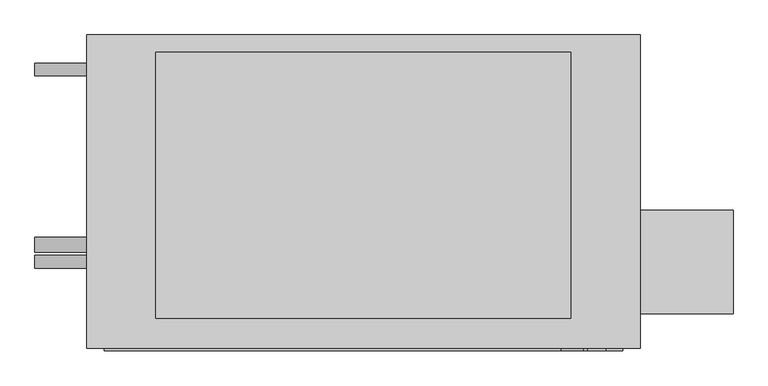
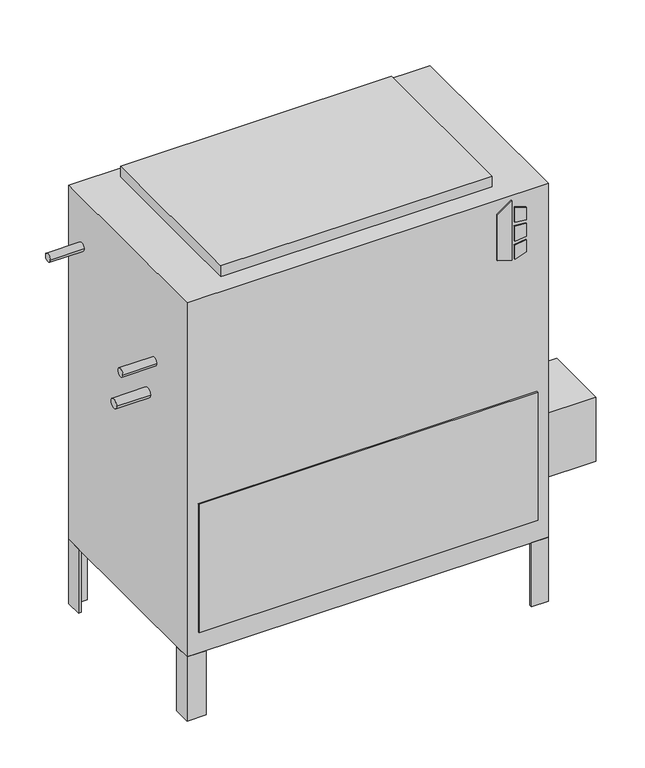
"""IFC4 building model written with IfcOpenShell, lengths in millimetres: proxy geometry, Concealed_High_Capacity_Vertical_Fan_Coil_Unit_-_VEY_-_IEC_-_2-Pipe_Cool-EHeat_LH_2022 : Size 10 - 277v/60Hz/1Ph - 6 Row 7.0kW."""

import ifcopenshell
import ifcopenshell.guid

model = None  # the IFC model being written
_history = None  # IfcOwnerHistory: only IFC2X3 demands one
_inside = {}  # id of a spatial element -> (the spatial element, [elements in it])
_under = {}  # id of a project, library or spatial element -> (it, [spatial elements below it])
_declared = {}  # id of a project -> (the project, [libraries it declares])
_typed = {}  # id of a type object -> (the type object, [elements of that type])
_made_of = {}  # id of a material, layer set ... -> (it, [elements and type objects made of it])


def new_model(schema):
    """Start an empty IFC model of exactly this schema.

    Asked for "IFC4X3", IfcOpenShell would pick the latest addendum, in which some entities
    have other attributes; the version numbers below select the first issue.
    IFC2X3 requires an IfcOwnerHistory on every rooted entity: one is made here for all.
    """
    global model, _history
    if schema == "IFC4X3":
        model = ifcopenshell.file(schema_version=(4, 3, 0, 0))
    else:
        model = ifcopenshell.file(schema=schema)
    _inside.clear()
    _under.clear()
    _declared.clear()
    _typed.clear()
    _made_of.clear()
    _history = None
    if model.schema == "IFC2X3":
        org = make("IfcOrganization", Name="unknown")
        user = make(
            "IfcPersonAndOrganization",
            ThePerson=make("IfcPerson", FamilyName="unknown"),
            TheOrganization=org,
        )
        app = make(
            "IfcApplication",
            ApplicationDeveloper=org,
            Version="unknown",
            ApplicationFullName="unknown",
            ApplicationIdentifier="unknown",
        )
        _history = make(
            "IfcOwnerHistory",
            OwningUser=user,
            OwningApplication=app,
            ChangeAction="ADDED",
            CreationDate=0,
        )
    return model


def make(cls, **values):
    """One entity of the class cls with the attributes given. An attribute that is None is left unset."""
    return model.create_entity(
        cls, **{name: value for name, value in values.items() if value is not None}
    )


def rooted(cls, **values):
    """An entity with a GlobalId (a new one), such as an element, a storey or a relation."""
    return make(cls, GlobalId=ifcopenshell.guid.new(), OwnerHistory=_history, **values)


def si_unit(unit_type, name, prefix=None):
    """IfcSIUnit, for example si_unit("LENGTHUNIT", "METRE", prefix="MILLI")."""
    return make("IfcSIUnit", UnitType=unit_type, Prefix=prefix, Name=name)


def assignment(units):
    """IfcUnitAssignment: the units of a project."""
    return None if units is None else make("IfcUnitAssignment", Units=units)


def point(xyz):
    """IfcCartesianPoint."""
    return None if xyz is None else make("IfcCartesianPoint", Coordinates=xyz)


def direction(xyz):
    """IfcDirection."""
    return None if xyz is None else make("IfcDirection", DirectionRatios=xyz)


def frame(location, z_axis=None, x_axis=None):
    """IfcAxis2Placement3D, a coordinate frame: its origin and axes. An axis left out is left unset."""
    return make(
        "IfcAxis2Placement3D",
        Location=point(location),
        Axis=direction(z_axis),
        RefDirection=direction(x_axis),
    )


def frame_2d(location, x_axis=None):
    """IfcAxis2Placement2D, a coordinate frame in the plane: its origin and x axis."""
    return make(
        "IfcAxis2Placement2D", Location=point(location), RefDirection=direction(x_axis)
    )


def origin():
    """The frame at (0, 0, 0) with its axes left unset."""
    return frame((0.0, 0.0, 0.0))


def origin_with_axes():
    """The frame at (0, 0, 0) with the z axis (0, 0, 1) and the x axis (1, 0, 0) written out."""
    return frame((0.0, 0.0, 0.0), z_axis=(0.0, 0.0, 1.0), x_axis=(1.0, 0.0, 0.0))


def place(relative_to, where):
    """IfcLocalPlacement: puts the frame where relative to a parent placement (None: the world)."""
    return make(
        "IfcLocalPlacement", PlacementRelTo=relative_to, RelativePlacement=where
    )


def context(
    kind, dimensions, precision=None, world=None, true_north=None, identifier=None
):
    """IfcGeometricRepresentationContext, for example the 3D "Model" context."""
    return make(
        "IfcGeometricRepresentationContext",
        ContextIdentifier=identifier,
        ContextType=kind,
        CoordinateSpaceDimension=dimensions,
        Precision=precision,
        WorldCoordinateSystem=world,
        TrueNorth=true_north,
    )


def project(units=None, contexts=None):
    """IfcProject with its units and contexts."""
    return rooted(
        "IfcProject",
        Name="project",
        RepresentationContexts=contexts,
        UnitsInContext=assignment(units),
    )


def spatial(cls, under=None, at=None, **own):
    """A site, building, storey or space (cls), placed at a placement, below another one or the project."""
    s = rooted(cls, ObjectPlacement=at, **own)
    if under is not None:
        _under.setdefault(under.id(), (under, []))[1].append(s)
    return s


def polyline(points):
    """IfcPolyline through the points."""
    return make("IfcPolyline", Points=[point(p) for p in points])


def circle_curve(where, radius):
    """IfcCircle in the frame where."""
    return make("IfcCircle", Position=where, Radius=radius)


def trimmed(basis, trim1, trim2, sense, master):
    """IfcTrimmedCurve: the piece of a basis curve between two trims."""
    return make(
        "IfcTrimmedCurve",
        BasisCurve=basis,
        Trim1=trim1,
        Trim2=trim2,
        SenseAgreement=sense,
        MasterRepresentation=master,
    )


def segment(curve, same_sense, transition):
    """IfcCompositeCurveSegment."""
    return make(
        "IfcCompositeCurveSegment",
        Transition=transition,
        SameSense=same_sense,
        ParentCurve=curve,
    )


def composite_curve(segments, self_intersect=None):
    """IfcCompositeCurve: segments joined end to end."""
    return make("IfcCompositeCurve", Segments=segments, SelfIntersect=self_intersect)


def outline(outer, holes=None, kind="AREA"):
    """IfcArbitraryClosedProfileDef: a profile drawn as a closed curve; with holes, ...WithVoids."""
    if holes is None:
        return make("IfcArbitraryClosedProfileDef", ProfileType=kind, OuterCurve=outer)
    return make(
        "IfcArbitraryProfileDefWithVoids",
        ProfileType=kind,
        OuterCurve=outer,
        InnerCurves=holes,
    )


def extrude(swept, where, along, depth):
    """IfcExtrudedAreaSolid: the profile swept, set in the frame where, extruded along a direction by depth."""
    return make(
        "IfcExtrudedAreaSolid",
        SweptArea=swept,
        Position=where,
        ExtrudedDirection=direction(along),
        Depth=depth,
    )


def shape(context_of_items, identifier, shape_type, items):
    """IfcShapeRepresentation: the items that make up one representation, for example the "Body"."""
    return make(
        "IfcShapeRepresentation",
        ContextOfItems=context_of_items,
        RepresentationIdentifier=identifier,
        RepresentationType=shape_type,
        Items=items,
    )


def source(mapping_origin, context_of_items, identifier, shape_type, items):
    """IfcRepresentationMap: a shape defined once, which mapped items show again and again."""
    return make(
        "IfcRepresentationMap",
        MappingOrigin=mapping_origin,
        MappedRepresentation=shape(context_of_items, identifier, shape_type, items),
    )


def transform(
    local_origin,
    x_axis=None,
    y_axis=None,
    z_axis=None,
    scale=None,
    scale2=None,
    scale3=None,
    uniform=True,
):
    """IfcCartesianTransformationOperator3D, or its non-uniform kind. x_axis, y_axis, z_axis: its Axis1, 2, 3."""
    if uniform:
        return make(
            "IfcCartesianTransformationOperator3D",
            Axis1=direction(x_axis),
            Axis2=direction(y_axis),
            LocalOrigin=point(local_origin),
            Scale=scale,
            Axis3=direction(z_axis),
        )
    return make(
        "IfcCartesianTransformationOperator3DnonUniform",
        Axis1=direction(x_axis),
        Axis2=direction(y_axis),
        LocalOrigin=point(local_origin),
        Scale=scale,
        Axis3=direction(z_axis),
        Scale2=scale2,
        Scale3=scale3,
    )


def mapped(mapping_source, mapping_target):
    """IfcMappedItem: shows the shape of a source again, moved by a transform."""
    return make(
        "IfcMappedItem", MappingSource=mapping_source, MappingTarget=mapping_target
    )


def made_of(thing, what):
    """Note that an element or type object is made of a material, layer set ...; save() writes the relation."""
    if what is not None:
        _made_of.setdefault(what.id(), (what, []))[1].append(thing)
    return thing


def element(
    cls,
    number,
    at=None,
    inside=None,
    cuts=None,
    type_object=None,
    material=None,
    context=None,
    identifier="Body",
    shape_type=None,
    held_by="IfcProductDefinitionShape",
    body=None,
    shapes=None,
    **own,
):
    """One element of the class cls, such as IfcWall. Its Tag is "e" and its number.

    at: its placement. inside: the storey or other place that contains it. cuts: it is an
    opening in that element (IfcRelVoidsElement). A single representation is given by context,
    identifier, shape_type and body (its items); several are given by shapes. held_by: the class
    of the entity that holds the representations. save() writes the other relations.
    """
    e = rooted(cls, Tag="e%d" % number, ObjectPlacement=at, **own)
    if body is not None:
        shapes = [shape(context, identifier, shape_type, body)]
    if shapes is not None:
        e.Representation = make(held_by, Representations=shapes)
    if inside is not None:
        _inside.setdefault(inside.id(), (inside, []))[1].append(e)
    if cuts is not None:
        rooted(
            "IfcRelVoidsElement", RelatingBuildingElement=cuts, RelatedOpeningElement=e
        )
    if type_object is not None:
        _typed.setdefault(type_object.id(), (type_object, []))[1].append(e)
    return made_of(e, material)


def aggregate(whole, parts):
    """IfcRelAggregates: a whole, such as a stair, and the parts it consists of."""
    return rooted("IfcRelAggregates", RelatingObject=whole, RelatedObjects=parts)


def save(model, path):
    """Write the relations noted so far, then the file.

    IfcRelAggregates (storeys below a building ...), IfcRelContainedInSpatialStructure (elements
    in a storey), IfcRelDefinesByType, IfcRelAssociatesMaterial and IfcRelDeclares: one each for
    every whole, place, type object, material and project.
    """
    for whole, parts in _under.values():
        aggregate(whole, parts)
    for where, things in _inside.values():
        rooted(
            "IfcRelContainedInSpatialStructure",
            RelatedElements=things,
            RelatingStructure=where,
        )
    for kind, things in _typed.values():
        rooted("IfcRelDefinesByType", RelatedObjects=things, RelatingType=kind)
    for what, things in _made_of.values():
        rooted("IfcRelAssociatesMaterial", RelatedObjects=things, RelatingMaterial=what)
    for by, libraries in _declared.values():
        rooted("IfcRelDeclares", RelatingContext=by, RelatedDefinitions=libraries)
    model.write(path)


def mechanical_equipment_4775b9d9(model_context):
    return source(origin(), model_context, "Body", "SweptSolid", [
        extrude(outline(polyline([(698.9230703, 442.9868862), (688.975, 475.1602728), (831.1459244, 475.1602728), (808.1239183, 442.9868862), (698.9230703, 442.9868862)])), frame((0.0, -471.4875, 0.0), z_axis=(0.0, 1.0, 0.0), x_axis=(0.0, 0.0, 1.0)), (0.0, 0.0, 1.0), 3.175),
        extrude(outline(polyline([(777.9223557, 481.9186058), (774.7199632, 508.0), (803.9488042, 508.0), (812.0132193, 481.9186058), (777.9223557, 481.9186058)])), frame((0.0, -471.4875, 0.0), z_axis=(0.0, 1.0, 0.0), x_axis=(0.0, 0.0, 1.0)), (0.0, 0.0, 1.0), 3.175),
        extrude(outline(polyline([(726.0588288, 508.0), (722.3933279, 481.9186058), (688.975, 481.9186058), (697.6092372, 508.0), (726.0588288, 508.0)])), frame((0.0, -471.4875, 0.0), z_axis=(0.0, 1.0, 0.0), x_axis=(0.0, 0.0, 1.0)), (0.0, 0.0, 1.0), 3.175),
        extrude(outline(polyline([(765.3739903, 508.0), (767.6558166, 481.9186058), (731.7182681, 481.9186058), (734.4595331, 508.0), (765.3739903, 508.0)])), frame((0.0, -471.4875, 0.0), z_axis=(0.0, 1.0, 0.0), x_axis=(0.0, 0.0, 1.0)), (0.0, 0.0, 1.0), 3.175),
        extrude(outline(polyline([(558.8, -417.5125), (558.8, -265.1125), (695.325, -265.1125), (695.325, -417.5125), (558.8, -417.5125)])), frame((0.0, 0.0, 101.6), z_axis=(0.0, 0.0, 1.0), x_axis=(1.0, 0.0, 0.0)), (0.0, 0.0, 1.0), 152.4),
        extrude(outline(polyline([(558.8, -46.0375), (552.45, -46.0375), (552.45, -14.2875), (520.7, -14.2875), (520.7, -7.9375), (558.8, -7.9375), (558.8, -46.0375)])), frame((0.0, 0.0, -152.4), z_axis=(0.0, 0.0, 1.0), x_axis=(1.0, 0.0, 0.0)), (0.0, 0.0, 1.0), 152.4),
        extrude(outline(polyline([(-215.9, -7.9375), (-215.9, -14.2875), (-247.65, -14.2875), (-247.65, -46.0375), (-254.0, -46.0375), (-254.0, -7.9375), (-215.9, -7.9375)])), frame((0.0, 0.0, -152.4), z_axis=(0.0, 0.0, 1.0), x_axis=(1.0, 0.0, 0.0)), (0.0, 0.0, 1.0), 152.4),
        extrude(outline(polyline([(520.7, -468.3125), (520.7, -461.9625), (552.45, -461.9625), (552.45, -430.2125), (558.8, -430.2125), (558.8, -468.3125), (520.7, -468.3125)])), frame((0.0, 0.0, -152.4), z_axis=(0.0, 0.0, 1.0), x_axis=(1.0, 0.0, 0.0)), (0.0, 0.0, 1.0), 152.4),
        extrude(outline(polyline([(-254.0, -428.1199163), (-247.65, -428.1199163), (-247.65, -461.9625), (-210.5318533, -461.9625), (-210.5318533, -468.3125), (-254.0, -468.3125), (-254.0, -428.1199163)])), frame((0.0, 0.0, -152.4), z_axis=(0.0, 0.0, 1.0), x_axis=(1.0, 0.0, 0.0)), (0.0, 0.0, 1.0), 152.4),
        extrude(outline(polyline([(457.2, -33.3375), (457.2, -423.8625), (-152.4, -423.8625), (-152.4, -33.3375), (457.2, -33.3375)])), frame((0.0, 0.0, 841.375), z_axis=(0.0, 0.0, 1.0), x_axis=(1.0, 0.0, 0.0)), (0.0, 0.0, 1.0), 25.4),
        extrude(outline(polyline([(533.4, -471.4875), (-228.6, -471.4875), (-228.6, -468.3125), (533.4, -468.3125), (533.4, -471.4875)])), frame((0.0, 0.0, 50.8), z_axis=(0.0, 0.0, 1.0), x_axis=(1.0, 0.0, 0.0)), (0.0, 0.0, 1.0), 304.8),
        extrude(outline(composite_curve([segment(trimmed(circle_curve(frame_2d((-58.7375, 727.075)), 9.525), [point((-68.2625, 727.075))], [point((-49.2125, 727.075))], False, "CARTESIAN"), True, "CONTINUOUS"), segment(trimmed(circle_curve(frame_2d((-58.7375, 727.075)), 9.525), [point((-49.2125, 727.075))], [point((-68.2625, 727.075))], False, "CARTESIAN"), True, "CONTINUOUS")], self_intersect=False)), frame((-330.2, 0.0, 0.0), z_axis=(1.0, 0.0, 0.0), x_axis=(0.0, 1.0, 0.0)), (0.0, 0.0, 1.0), 76.2),
        extrude(outline(composite_curve([segment(trimmed(circle_curve(frame_2d((-341.3125, 625.475)), 9.525), [point((-350.8375, 625.475))], [point((-331.7875, 625.475))], False, "CARTESIAN"), True, "CONTINUOUS"), segment(trimmed(circle_curve(frame_2d((-341.3125, 625.475)), 9.525), [point((-331.7875, 625.475))], [point((-350.8375, 625.475))], False, "CARTESIAN"), True, "CONTINUOUS")], self_intersect=False)), frame((-330.2, 0.0, 0.0), z_axis=(1.0, 0.0, 0.0), x_axis=(0.0, 1.0, 0.0)), (0.0, 0.0, 1.0), 76.2),
        extrude(outline(composite_curve([segment(trimmed(circle_curve(frame_2d((-315.9125, 536.575)), 11.1125), [point((-327.025, 536.575))], [point((-304.8, 536.575))], False, "CARTESIAN"), True, "CONTINUOUS"), segment(trimmed(circle_curve(frame_2d((-315.9125, 536.575)), 11.1125), [point((-304.8, 536.575))], [point((-327.025, 536.575))], False, "CARTESIAN"), True, "CONTINUOUS")], self_intersect=False)), frame((-330.2, 0.0, 0.0), z_axis=(1.0, 0.0, 0.0), x_axis=(0.0, 1.0, 0.0)), (0.0, 0.0, 1.0), 76.2),
        extrude(outline(polyline([(558.8, -7.9375), (558.8, -468.3125), (-254.0, -468.3125), (-254.0, -7.9375), (558.8, -7.9375)])), origin_with_axes(), (0.0, 0.0, 1.0), 841.375),
    ])


if __name__ == "__main__":
    model = new_model("IFC4")
    model_context = context("Model", 3, world=origin())
    ifc_project = project(units=[si_unit("LENGTHUNIT", "METRE", prefix="MILLI")], contexts=[model_context])
    site = spatial("IfcSite", under=ifc_project)
    building = spatial("IfcBuilding", under=site)
    placement = place(None, origin())
    mechanical_equipment_shape = mechanical_equipment_4775b9d9(model_context)
    element("IfcBuildingElementProxy", 1, Name="Concealed_High_Capacity_Vertical_Fan_Coil_Unit_-_VEY_-_IEC_-_2-Pipe_Cool-EHeat_LH_2022 : Size 10 - 277v/60Hz/1Ph - 6 Row 7.0kW", ObjectType="Concealed_High_Capacity_Vertical_Fan_Coil_Unit_-_VEY_-_IEC_-_2-Pipe_Cool-EHeat_LH_2022 : Size 10 - 277v/60Hz/1Ph - 6 Row 7.0kW", at=placement, inside=building, context=model_context, shape_type="MappedRepresentation", body=[
        mapped(mechanical_equipment_shape, transform((0.0, 0.0, 0.0), x_axis=(1.0, 0.0, 0.0), y_axis=(0.0, 1.0, 0.0), z_axis=(0.0, 0.0, 1.0))),
    ])
    save(model, "model.ifc")
